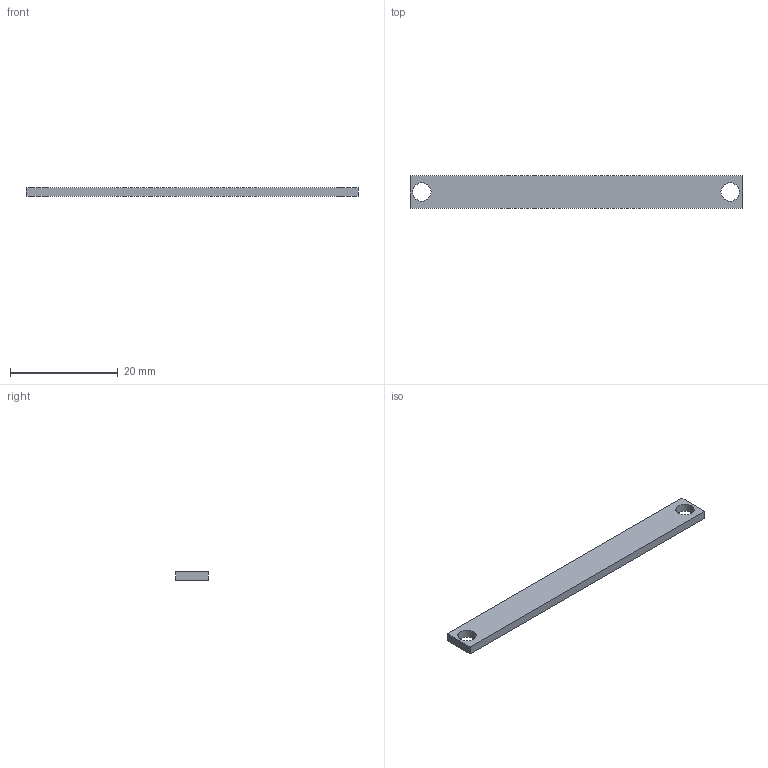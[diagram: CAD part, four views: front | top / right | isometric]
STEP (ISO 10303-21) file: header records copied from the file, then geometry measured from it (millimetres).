
FILE_DESCRIPTION(('FreeCAD Model'),'2;1');
FILE_NAME('Open CASCADE Shape Model','2026-11-20T08:25:38',('FreeCAD'),( 'FreeCAD'),'Open CASCADE STEP processor 7.8','FreeCAD','Unknown');
FILE_SCHEMA(('AUTOMOTIVE_DESIGN { 1 0 10303 214 1 1 1 1 }'));
Length unit declared in the file: millimetre
Products named in the file (1): Open CASCADE STEP translator 7.8 39
Bounding box: 61.6 x 6 x 1.6 mm (x, y, z)
Volume: 562.3 mm3; surface area: 953.4 mm2
Topology: 1 solids, 1 shells, 8 faces, 18 edges, 12 vertices
Faces by surface type: plane 6, cylinder 2
Full cylindrical faces by diameter (mm): 3.4 x2
Entity records: 244 total; most frequent: DIRECTION 40, CARTESIAN_POINT 39, ORIENTED_EDGE 36, EDGE_CURVE 18, LINE 14, VECTOR 14, AXIS2_PLACEMENT_3D 13, FACE_BOUND 12
